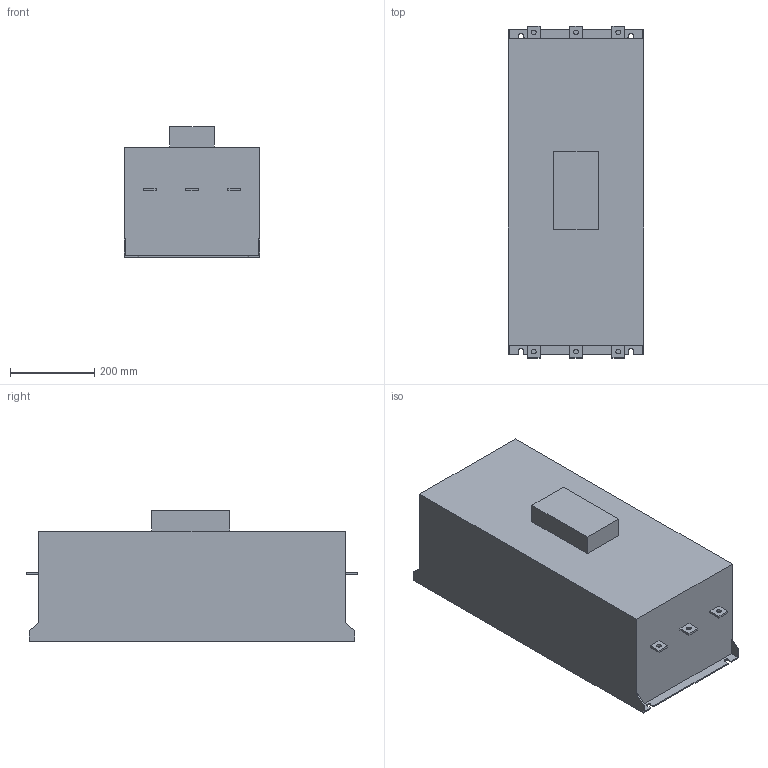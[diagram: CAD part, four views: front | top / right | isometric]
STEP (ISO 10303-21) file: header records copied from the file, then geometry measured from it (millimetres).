
FILE_DESCRIPTION(/* description */ (''),/* implementation_level */ '2;1');
FILE_NAME(/* name */ 'O:\БЭМ\Personal\Абрамов\262-20-1 ТП Драчево\3D Inventor\MCD1\MCD5 F5.stp',/* time_stamp */ '2023-10-12T06:08:02+03:00',/* author */ ('a.abramov'),/* organization */ (''),/* preprocessor_version */ 'ST-DEVELOPER v18.1',/* originating_system */ 'Autodesk Inventor 2022',/* authorisation */ '');
FILE_SCHEMA (('AUTOMOTIVE_DESIGN { 1 0 10303 214 3 1 1 }'));
Length unit declared in the file: millimetre
Products named in the file (1): MCD5 F5
Bounding box: 320 x 786 x 309 mm (x, y, z)
Volume: 61640248 mm3; surface area: 1084078.5 mm2
Topology: 1 solids, 1 shells, 75 faces, 200 edges, 132 vertices
Faces by surface type: plane 63, cylinder 12
Full cylindrical faces by diameter (mm): 11 x6
Entity records: 2383 total; most frequent: CARTESIAN_POINT 408, ORIENTED_EDGE 400, DIRECTION 380, EDGE_CURVE 200, LINE 172, VECTOR 172, VERTEX_POINT 132, AXIS2_PLACEMENT_3D 104
